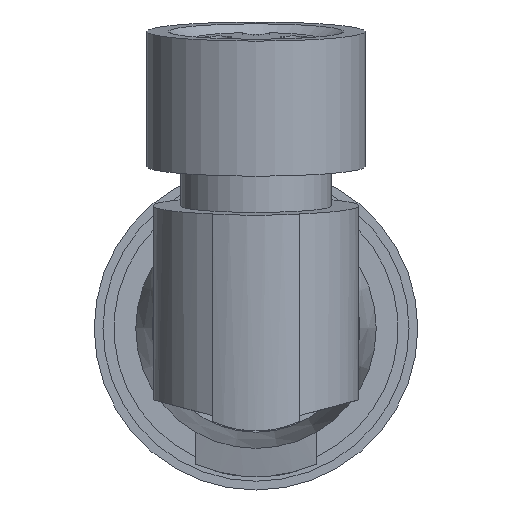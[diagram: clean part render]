
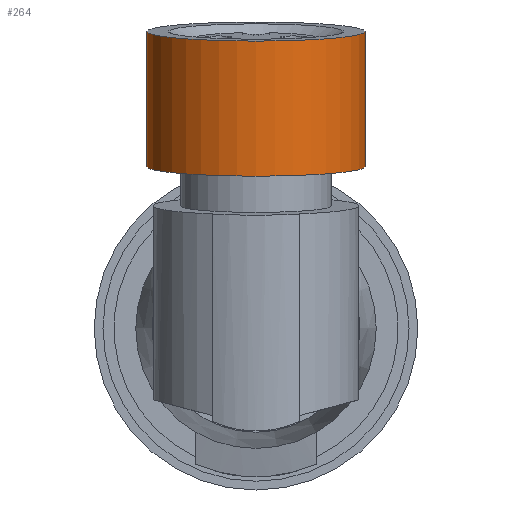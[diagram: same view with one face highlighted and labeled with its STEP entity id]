
A CAD part, left-side view. The second image highlights one B-rep face of the part: STEP entity #264.
In plain terms, the highlighted cylindrical face has radius 5 mm (diameter 10 mm), a full revolution.
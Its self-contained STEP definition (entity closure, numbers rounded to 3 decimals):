
#264 = ADVANCED_FACE( '', ( #670, #671 ), #672, .T. );
#670 = FACE_OUTER_BOUND( '', #1262, .T. );
#671 = FACE_OUTER_BOUND( '', #1263, .T. );
#672 = CYLINDRICAL_SURFACE( '', #1264, 5. );
#1262 = EDGE_LOOP( '', ( #2053 ) );
#1263 = EDGE_LOOP( '', ( #2054 ) );
#1264 = AXIS2_PLACEMENT_3D( '', #2055, #2056, #2057 );
#2053 = ORIENTED_EDGE( '', *, *, #4040, .F. );
#2054 = ORIENTED_EDGE( '', *, *, #4114, .T. );
#2055 = CARTESIAN_POINT( '', ( -211.78, 0., 13.567 ) );
#2056 = DIRECTION( '', ( 0.087, 0., -0.996 ) );
#2057 = DIRECTION( '', ( 0.996, 0., 0.087 ) );
#4040 = EDGE_CURVE( '', #4676, #4676, #4677, .T. );
#4114 = EDGE_CURVE( '', #4803, #4803, #4804, .T. );
#4676 = VERTEX_POINT( '', #5851 );
#4677 = CIRCLE( '', #5852, 5. );
#4803 = VERTEX_POINT( '', #6650 );
#4804 = CIRCLE( '', #6651, 5. );
#5851 = CARTESIAN_POINT( '', ( -206.799, 0., 14.003 ) );
#5852 = AXIS2_PLACEMENT_3D( '', #8620, #8621, #8622 );
#6650 = CARTESIAN_POINT( '', ( -206.259, 0., 7.827 ) );
#6651 = AXIS2_PLACEMENT_3D( '', #8694, #8695, #8696 );
#8620 = CARTESIAN_POINT( '', ( -211.78, 0., 13.567 ) );
#8621 = DIRECTION( '', ( -0.087, 0., 0.996 ) );
#8622 = DIRECTION( '', ( 0.996, 0., 0.087 ) );
#8694 = CARTESIAN_POINT( '', ( -211.24, 0., 7.391 ) );
#8695 = DIRECTION( '', ( -0.087, 0., 0.996 ) );
#8696 = DIRECTION( '', ( 0.996, 0., 0.087 ) );
